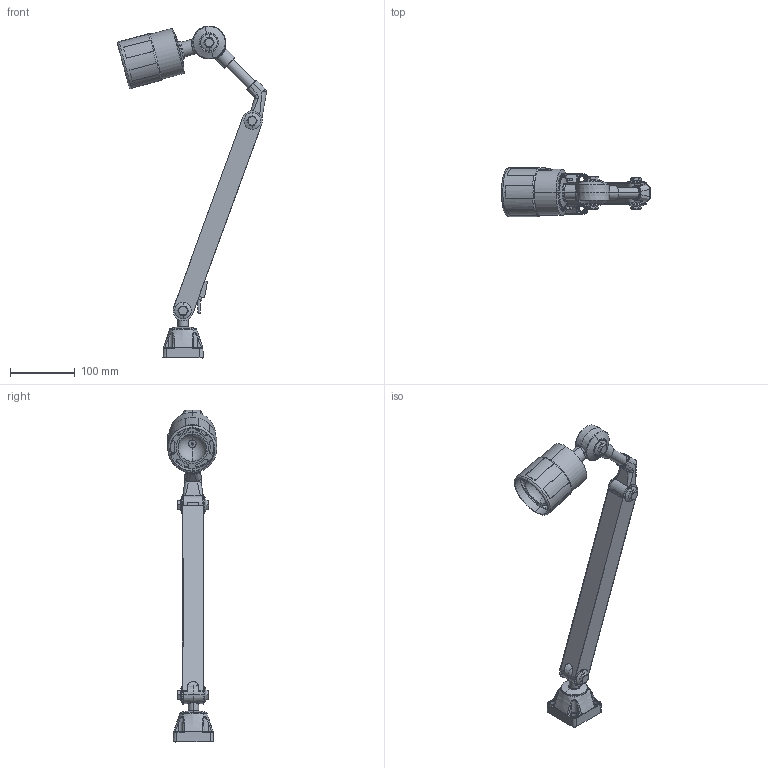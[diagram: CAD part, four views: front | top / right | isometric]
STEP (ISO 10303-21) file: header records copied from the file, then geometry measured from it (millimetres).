
FILE_DESCRIPTION((''),'2;1');
FILE_NAME('THL07-9MT','2016-09-28T',('ABS'),(''),'PRO/ENGINEER BY PARAMETRIC TECHNOLOGY CORPORATION, 2012360','PRO/ENGINEER BY PARAMETRIC TECHNOLOGY CORPORATION, 2012360','');
FILE_SCHEMA(('CONFIG_CONTROL_DESIGN'));
Products named in the file (1): THL07-9MT
Bounding box: 229.56 x 76.12 x 511.28 mm (x, y, z)
Volume: 425218.9 mm3; surface area: 223815.4 mm2
Topology: 1 solids, 5 shells, 1192 faces, 3535 edges, 2351 vertices
Faces by surface type: cylinder 419, plane 404, bspline 130, cone 129, torus 54, sphere 53, extrusion 3
Entity records: 59255 total; most frequent: CARTESIAN_POINT 28492, ORIENTED_EDGE 7016, DIRECTION 5864, EDGE_CURVE 3508, VERTEX_POINT 2351, AXIS2_PLACEMENT_3D 2317, EDGE_LOOP 1303, CIRCLE 1258
